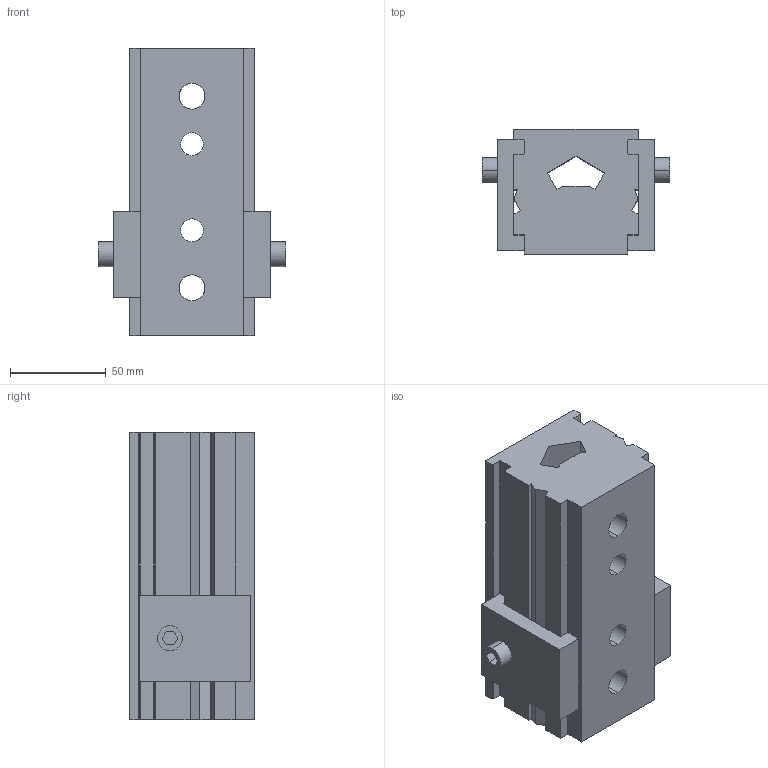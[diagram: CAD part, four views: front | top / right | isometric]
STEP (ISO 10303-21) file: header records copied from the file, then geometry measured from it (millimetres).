
FILE_DESCRIPTION(('CATIA V5 STEP Exchange'),'2;1');
FILE_NAME('C:\Users\Utente\Desktop\3D files A945-01\A945-01-615-01-S-BC.stp','2020-04-17T09:16:39+00:00',('none'),('none'),'CATIA Version 5 Release 20 GA (IN-10)','CATIA V5 STEP AP203','none');
FILE_SCHEMA(('CONFIG_CONTROL_DESIGN'));
Length unit declared in the file: millimetre
Products named in the file (1): A945-01-615-01-S-BC
Bounding box: 98 x 65 x 150 mm (x, y, z)
Volume: 577822.4 mm3; surface area: 75558.7 mm2
Topology: 1 solids, 3 shells, 121 faces, 381 edges, 258 vertices
Faces by surface type: plane 97, cylinder 24
Entity records: 4589 total; most frequent: CARTESIAN_POINT 1157, ORIENTED_EDGE 762, DIRECTION 599, EDGE_CURVE 381, VECTOR 293, LINE 293, VERTEX_POINT 258, AXIS2_PLACEMENT_3D 186
